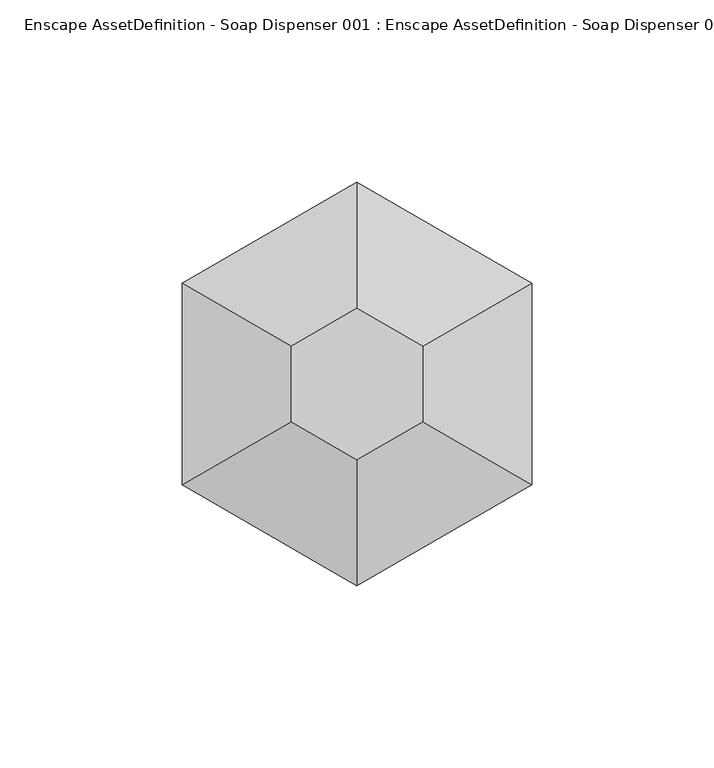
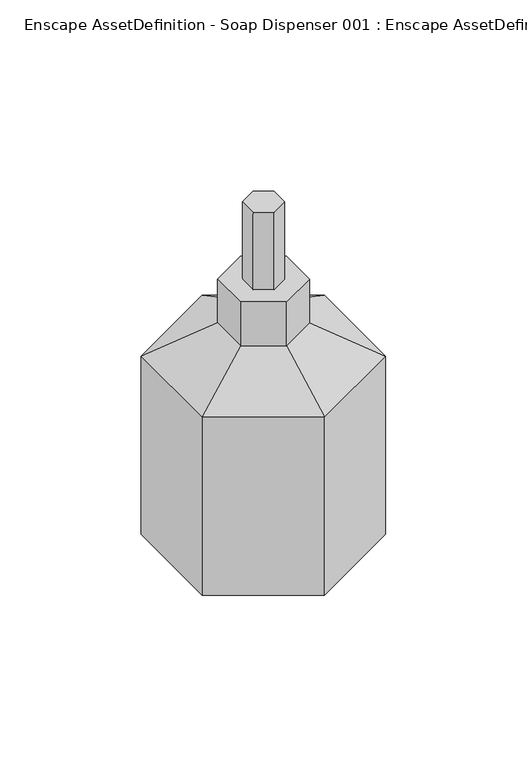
"""IFC4 building model written with IfcOpenShell, lengths in millimetres: geographic element geometry, Enscape AssetDefinition - Soap Dispenser 001 : Enscape AssetDefinition - Soap Dispenser 001."""

from ifc_helpers import new_model, si_unit, origin, place, context, project, spatial, triangles, source, transform, mapped, element, save


def enscape_assetdefinition_soap_dispenser_001_enscape_c80f563d(model_context):
    return source(origin(), model_context, "Body", "Tessellation", [
        triangles([(21.519653, 12.4240486, 0.0), (0.0, -24.8490987, 0.0), (21.519653, -12.4240486, 0.0), (0.0, 24.8490987, 0.0), (47.8666549, 27.6364944, 17.5930543), (0.0, 55.2719851, 17.5930543), (0.0, 55.2719851, 115.7901253), (47.8666549, 27.6364944, 115.7901253), (0.0, -55.2719851, 17.5930543), (47.8666549, -27.6364944, 17.5930543), (-21.519653, -12.4240486, 0.0), (0.0, -55.2719851, 115.7901253), (-47.8666549, -27.6364944, 17.5930543), (47.8666549, -27.6364944, 115.7901253), (0.0, -20.7772179, 134.2017649), (17.9938304, -10.3891097, 134.2017649), (17.9938304, 10.3891097, 158.3414978), (17.9938304, -10.3891097, 158.3414978), (0.0, -20.7772179, 158.3414978), (0.0, -9.5424703, 158.3414978), (-17.9938304, -10.3891097, 134.2017649), (8.263997, -4.7712352, 158.3414978), (-17.9938304, -10.3891097, 158.3414978), (-17.9938304, 10.3891097, 134.2017649), (-17.9938304, 10.3891097, 158.3414978), (-8.263997, -4.7712352, 158.3414978), (0.0, -9.5424703, 200.8928613), (-8.263997, -4.7712352, 200.8928613), (8.263997, -4.7712352, 200.8928613), (-8.263997, 4.7712352, 200.8928613), (0.0, 9.5434729, 200.8928613), (8.263997, 4.7712352, 200.8928613), (0.0, 9.5434729, 158.3414978), (0.0, 20.7772179, 158.3414978), (-8.263997, 4.7712352, 158.3414978), (0.0, 20.7772179, 134.2017649), (8.263997, 4.7712352, 158.3414978), (17.9938304, 10.3891097, 134.2017649), (-47.8666549, 27.6364944, 17.5930543), (-47.8666549, 27.6364944, 115.7901253), (-47.8666549, -27.6364944, 115.7901253), (-21.519653, 12.4240486, 0.0)], [[42, 4, 11], [42, 11, 13], [42, 13, 39], [4, 39, 6], [4, 42, 39], [39, 13, 41], [41, 21, 24], [41, 24, 40], [6, 40, 7], [39, 41, 40], [6, 39, 40], [40, 36, 7], [8, 7, 36], [40, 24, 36], [8, 36, 38], [37, 31, 32], [37, 33, 31], [34, 37, 17], [38, 34, 17], [34, 33, 37], [38, 36, 34], [36, 25, 34], [36, 24, 25], [34, 35, 33], [34, 25, 35], [33, 30, 31], [35, 28, 30], [31, 30, 32], [33, 35, 30], [32, 30, 29], [29, 30, 27], [27, 30, 28], [26, 27, 28], [25, 26, 35], [35, 26, 28], [24, 23, 25], [25, 23, 26], [24, 21, 23], [20, 29, 27], [23, 20, 26], [26, 20, 27], [22, 32, 29], [22, 37, 32], [20, 22, 29], [19, 22, 20], [21, 19, 23], [23, 19, 20], [18, 37, 22], [19, 18, 22], [18, 17, 37], [16, 17, 18], [16, 38, 17], [15, 18, 19], [21, 15, 19], [15, 16, 18], [12, 21, 41], [13, 12, 41], [12, 15, 21], [14, 15, 12], [14, 38, 16], [14, 16, 15], [14, 8, 38], [9, 14, 12], [11, 9, 13], [13, 9, 12], [11, 4, 2], [11, 2, 9], [10, 8, 14], [2, 10, 9], [9, 10, 14], [5, 7, 8], [10, 5, 8], [5, 6, 7], [4, 6, 5], [4, 5, 1], [3, 5, 10], [2, 4, 3], [3, 4, 1], [2, 3, 10], [3, 1, 5]]),
    ])


if __name__ == "__main__":
    model = new_model("IFC4")
    model_context = context("Model", 3, world=origin())
    ifc_project = project(units=[si_unit("LENGTHUNIT", "METRE", prefix="MILLI")], contexts=[model_context])
    site = spatial("IfcSite", under=ifc_project)
    building = spatial("IfcBuilding", under=site)
    placement = place(None, origin())
    enscape_assetdefinition_soap_dispenser_001_enscape_shape = enscape_assetdefinition_soap_dispenser_001_enscape_c80f563d(model_context)
    element("IfcGeographicElement", 1, ObjectType="Enscape AssetDefinition - Soap Dispenser 001 : Enscape AssetDefinition - Soap Dispenser 001", at=placement, inside=building, context=model_context, shape_type="MappedRepresentation", body=[
        mapped(enscape_assetdefinition_soap_dispenser_001_enscape_shape, transform((0.0, 0.0, 0.0), x_axis=(1.0, 0.0, 0.0), y_axis=(0.0, 1.0, 0.0), z_axis=(0.0, 0.0, 1.0))),
    ])
    save(model, "model.ifc")
